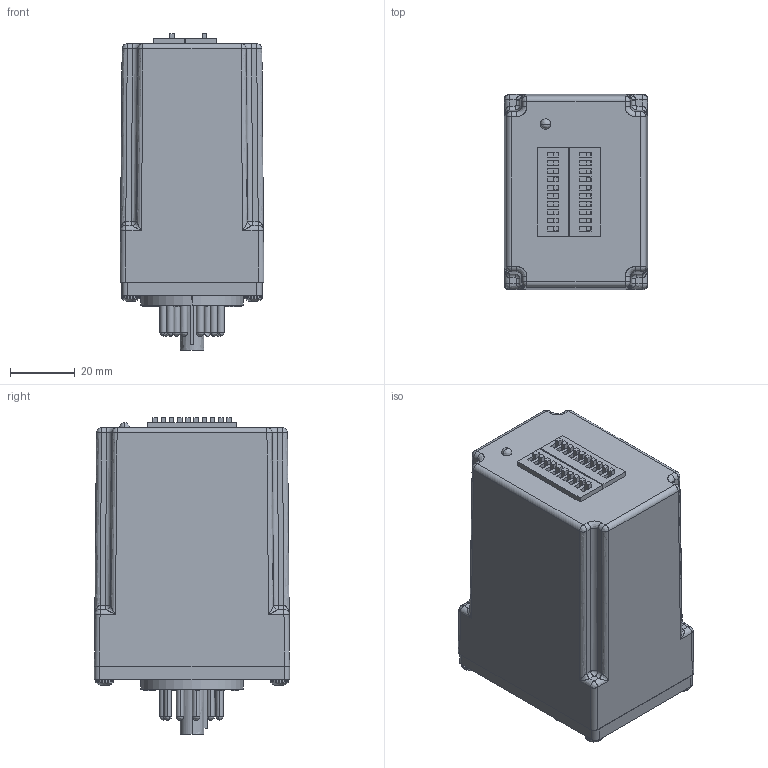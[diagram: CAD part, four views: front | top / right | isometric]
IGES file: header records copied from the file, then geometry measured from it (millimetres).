
Start section: SolidWorks IGES file using analytic representation for surfaces
Global section: file name: C:\Documents and Settings\Joshua\Desktop\eric\090413\TD-8 Dual.igs; native system: SolidWorks 2007; preprocessor: SolidWorks 2007; author: Joshua; date: 140904.220545; units: inch
Bounding box: 44.45 x 60.33 x 97.87 mm (x, y, z)
Surface area: 32042.3 mm2 (no closed solid volume)
Topology: 0 solids, 0 shells, 948 faces, 10082 edges, 10007 vertices
Faces by surface type: bspline 620, revolution 328
